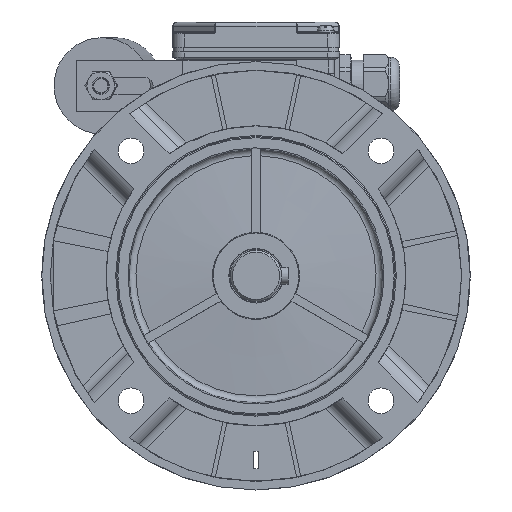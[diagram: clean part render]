
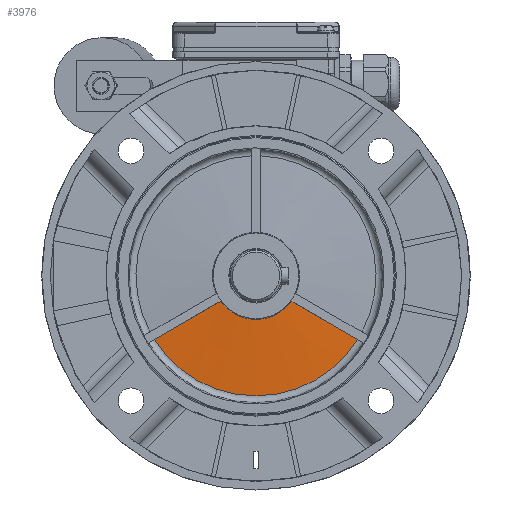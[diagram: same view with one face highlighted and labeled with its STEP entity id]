
A CAD part, left-side view. The second image highlights one B-rep face of the part: STEP entity #3976.
In plain terms, the highlighted conical face has half-angle 85.7 degrees and reference radius 56.036 mm.
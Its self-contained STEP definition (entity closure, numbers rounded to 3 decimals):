
#3976 = ADVANCED_FACE( '', ( #8552 ), #8553, .T. );
#8552 = FACE_OUTER_BOUND( '', #15476, .T. );
#8553 = CONICAL_SURFACE( '', #15477, 56.036, 1.496 );
#15476 = EDGE_LOOP( '', ( #28716, #28717, #28718, #28719 ) );
#15477 = AXIS2_PLACEMENT_3D( '', #28720, #28721, #28722 );
#28716 = ORIENTED_EDGE( '', *, *, #57598, .F. );
#28717 = ORIENTED_EDGE( '', *, *, #54924, .F. );
#28718 = ORIENTED_EDGE( '', *, *, #56253, .F. );
#28719 = ORIENTED_EDGE( '', *, *, #57630, .T. );
#28720 = CARTESIAN_POINT( '', ( 0., 0., 16.952 ) );
#28721 = DIRECTION( '', ( 0., 0., 1. ) );
#28722 = DIRECTION( '', ( 1., 0., 0. ) );
#54924 = EDGE_CURVE( '', #68013, #68009, #68015, .T. );
#56253 = EDGE_CURVE( '', #70183, #68013, #70185, .T. );
#57598 = EDGE_CURVE( '', #68009, #72274, #72278, .T. );
#57630 = EDGE_CURVE( '', #70183, #72274, #72319, .T. );
#68009 = VERTEX_POINT( '', #80055 );
#68013 = VERTEX_POINT( '', #80076 );
#68015 = CIRCLE( '', #80095, 56.036 );
#70183 = VERTEX_POINT( '', #83508 );
#70185 = B_SPLINE_CURVE_WITH_KNOTS( '', 3, ( #83516, #83517, #83518, #83519 ), .UNSPECIFIED., .F., .F., ( 4, 4 ), ( 0.025, 0.061 ), .UNSPECIFIED. );
#72274 = VERTEX_POINT( '', #86676 );
#72278 = B_SPLINE_CURVE_WITH_KNOTS( '', 3, ( #86687, #86688, #86689, #86690 ), .UNSPECIFIED., .F., .F., ( 4, 4 ), ( 0.023, 0.059 ), .UNSPECIFIED. );
#72319 = CIRCLE( '', #86743, 20.327 );
#80055 = CARTESIAN_POINT( '', ( 47.497, -29.732, 16.952 ) );
#80076 = CARTESIAN_POINT( '', ( -47.497, -29.732, 16.952 ) );
#80095 = AXIS2_PLACEMENT_3D( '', #95853, #95854, #95855 );
#83508 = CARTESIAN_POINT( '', ( -16.519, -11.846, 14.267 ) );
#83516 = CARTESIAN_POINT( '', ( -16.519, -11.846, 14.267 ) );
#83517 = CARTESIAN_POINT( '', ( -26.845, -17.808, 15.159 ) );
#83518 = CARTESIAN_POINT( '', ( -37.171, -23.77, 16.056 ) );
#83519 = CARTESIAN_POINT( '', ( -47.497, -29.732, 16.952 ) );
#86676 = CARTESIAN_POINT( '', ( 16.519, -11.846, 14.267 ) );
#86687 = CARTESIAN_POINT( '', ( 47.497, -29.732, 16.952 ) );
#86688 = CARTESIAN_POINT( '', ( 37.171, -23.77, 16.056 ) );
#86689 = CARTESIAN_POINT( '', ( 26.845, -17.808, 15.159 ) );
#86690 = CARTESIAN_POINT( '', ( 16.519, -11.846, 14.267 ) );
#86743 = AXIS2_PLACEMENT_3D( '', #99479, #99480, #99481 );
#95853 = CARTESIAN_POINT( '', ( 0., 0., 16.952 ) );
#95854 = DIRECTION( '', ( 0., 0., 1. ) );
#95855 = DIRECTION( '', ( 1., 0., 0. ) );
#99479 = CARTESIAN_POINT( '', ( 0., 0., 14.267 ) );
#99480 = DIRECTION( '', ( 0., 0., 1. ) );
#99481 = DIRECTION( '', ( 1., 0., 0. ) );
